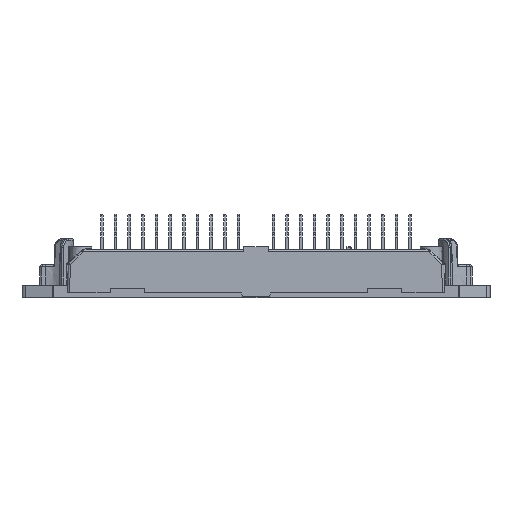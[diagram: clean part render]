
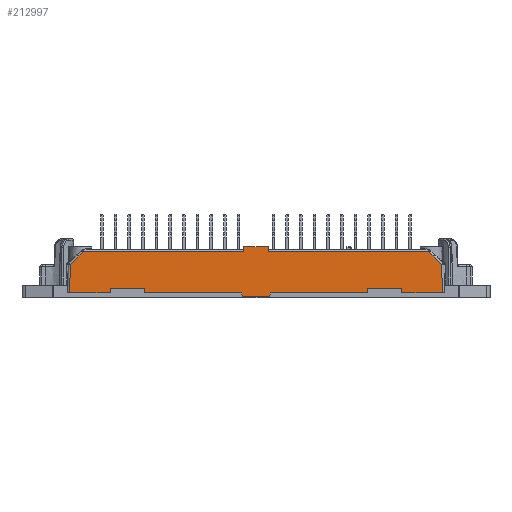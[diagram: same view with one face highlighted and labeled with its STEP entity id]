
A CAD part, front view. The second image highlights one B-rep face of the part: STEP entity #212997.
In plain terms, the highlighted planar face has unit normal (0, -1, 0.026).
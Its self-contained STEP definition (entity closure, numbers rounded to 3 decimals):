
#28141=ORIENTED_EDGE('',*,*,#67902,.F.);
#28142=ORIENTED_EDGE('',*,*,#67903,.T.);
#28143=ORIENTED_EDGE('',*,*,#67904,.F.);
#28144=ORIENTED_EDGE('',*,*,#67905,.T.);
#28145=ORIENTED_EDGE('',*,*,#67906,.T.);
#28146=ORIENTED_EDGE('',*,*,#66260,.F.);
#28147=ORIENTED_EDGE('',*,*,#66258,.T.);
#28148=ORIENTED_EDGE('',*,*,#67640,.F.);
#28149=ORIENTED_EDGE('',*,*,#66253,.T.);
#28150=ORIENTED_EDGE('',*,*,#67761,.T.);
#28151=ORIENTED_EDGE('',*,*,#66251,.T.);
#28152=ORIENTED_EDGE('',*,*,#66249,.T.);
#28153=ORIENTED_EDGE('',*,*,#67907,.T.);
#28154=ORIENTED_EDGE('',*,*,#67908,.F.);
#28155=ORIENTED_EDGE('',*,*,#67909,.T.);
#28156=ORIENTED_EDGE('',*,*,#67910,.T.);
#28157=ORIENTED_EDGE('',*,*,#67911,.T.);
#28158=ORIENTED_EDGE('',*,*,#66281,.F.);
#28159=ORIENTED_EDGE('',*,*,#66285,.T.);
#28160=ORIENTED_EDGE('',*,*,#66290,.F.);
#28161=ORIENTED_EDGE('',*,*,#66291,.F.);
#28162=ORIENTED_EDGE('',*,*,#66295,.T.);
#66249=EDGE_CURVE('',#84065,#84402,#103229,.T.);
#66251=EDGE_CURVE('',#84404,#84065,#103231,.T.);
#66253=EDGE_CURVE('',#84405,#84406,#103232,.F.);
#66258=EDGE_CURVE('',#84068,#84408,#103236,.F.);
#66260=EDGE_CURVE('',#84068,#84410,#103238,.T.);
#66281=EDGE_CURVE('',#84425,#84426,#103255,.F.);
#66285=EDGE_CURVE('',#84425,#84429,#103259,.T.);
#66290=EDGE_CURVE('',#84432,#84429,#103264,.F.);
#66291=EDGE_CURVE('',#84433,#84432,#103265,.T.);
#66295=EDGE_CURVE('',#84433,#84435,#103269,.F.);
#67640=EDGE_CURVE('',#84405,#84408,#103845,.T.);
#67761=EDGE_CURVE('',#84406,#84404,#103896,.T.);
#67902=EDGE_CURVE('',#85613,#84435,#103952,.F.);
#67903=EDGE_CURVE('',#85613,#85614,#103953,.F.);
#67904=EDGE_CURVE('',#85615,#85614,#103954,.F.);
#67905=EDGE_CURVE('',#85615,#85616,#103955,.F.);
#67906=EDGE_CURVE('',#85616,#84410,#103956,.F.);
#67907=EDGE_CURVE('',#84402,#85617,#103957,.F.);
#67908=EDGE_CURVE('',#85618,#85617,#103958,.F.);
#67909=EDGE_CURVE('',#85618,#85619,#103959,.F.);
#67910=EDGE_CURVE('',#85619,#85620,#103960,.F.);
#67911=EDGE_CURVE('',#85620,#84426,#103961,.F.);
#84065=VERTEX_POINT('',#297188);
#84068=VERTEX_POINT('',#297198);
#84402=VERTEX_POINT('',#301389);
#84404=VERTEX_POINT('',#301395);
#84405=VERTEX_POINT('',#301399);
#84406=VERTEX_POINT('',#301400);
#84408=VERTEX_POINT('',#301407);
#84410=VERTEX_POINT('',#301413);
#84425=VERTEX_POINT('',#301478);
#84426=VERTEX_POINT('',#301479);
#84429=VERTEX_POINT('',#301487);
#84432=VERTEX_POINT('',#301495);
#84433=VERTEX_POINT('',#301499);
#84435=VERTEX_POINT('',#301505);
#85613=VERTEX_POINT('',#306697);
#85614=VERTEX_POINT('',#306699);
#85615=VERTEX_POINT('',#306701);
#85616=VERTEX_POINT('',#306703);
#85617=VERTEX_POINT('',#306706);
#85618=VERTEX_POINT('',#306708);
#85619=VERTEX_POINT('',#306710);
#85620=VERTEX_POINT('',#306712);
#103229=LINE('',#301390,#121530);
#103231=LINE('',#301394,#121532);
#103232=LINE('',#301398,#121533);
#103236=LINE('',#301408,#121537);
#103238=LINE('',#301412,#121539);
#103255=LINE('',#301477,#121556);
#103259=LINE('',#301486,#121560);
#103264=LINE('',#301496,#121565);
#103265=LINE('',#301498,#121566);
#103269=LINE('',#301507,#121570);
#103845=LINE('',#305744,#122146);
#103896=LINE('',#306168,#122197);
#103952=LINE('',#306696,#122253);
#103953=LINE('',#306698,#122254);
#103954=LINE('',#306700,#122255);
#103955=LINE('',#306702,#122256);
#103956=LINE('',#306704,#122257);
#103957=LINE('',#306705,#122258);
#103958=LINE('',#306707,#122259);
#103959=LINE('',#306709,#122260);
#103960=LINE('',#306711,#122261);
#103961=LINE('',#306713,#122262);
#121530=VECTOR('',#250558,1000.);
#121532=VECTOR('',#250562,1000.);
#121533=VECTOR('',#250567,1000.);
#121537=VECTOR('',#250575,1000.);
#121539=VECTOR('',#250579,1000.);
#121556=VECTOR('',#250612,1000.);
#121560=VECTOR('',#250618,1000.);
#121565=VECTOR('',#250625,1000.);
#121566=VECTOR('',#250628,1000.);
#121570=VECTOR('',#250634,1000.);
#122146=VECTOR('',#252742,1000.);
#122197=VECTOR('',#252885,1000.);
#122253=VECTOR('',#253069,1000.);
#122254=VECTOR('',#253070,1000.);
#122255=VECTOR('',#253071,1000.);
#122256=VECTOR('',#253072,1000.);
#122257=VECTOR('',#253073,1000.);
#122258=VECTOR('',#253074,1000.);
#122259=VECTOR('',#253075,1000.);
#122260=VECTOR('',#253076,1000.);
#122261=VECTOR('',#253077,1000.);
#122262=VECTOR('',#253078,1000.);
#131837=EDGE_LOOP('',(#28141,#28142,#28143,#28144,#28145,#28146,#28147,
#28148,#28149,#28150,#28151,#28152,#28153,#28154,#28155,#28156,#28157,#28158,
#28159,#28160,#28161,#28162));
#140523=FACE_BOUND('',#131837,.T.);
#148665=PLANE('',#221974);
#212997=ADVANCED_FACE('',(#140523),#148665,.T.);
#221974=AXIS2_PLACEMENT_3D('',#306695,#253067,#253068);
#250558=DIRECTION('',(-0.707,-0.019,-0.707));
#250562=DIRECTION('',(-1.,0.,0.));
#250567=DIRECTION('',(1.,0.,0.));
#250575=DIRECTION('',(1.,0.,0.));
#250579=DIRECTION('',(0.707,-0.019,-0.707));
#250612=DIRECTION('',(1.,0.,0.));
#250618=DIRECTION('',(0.174,-0.026,-0.984));
#250625=DIRECTION('',(1.,0.,0.));
#250628=DIRECTION('',(-0.174,-0.026,-0.984));
#250634=DIRECTION('',(-1.,0.,0.));
#252742=DIRECTION('',(0.017,-0.026,-1.));
#252885=DIRECTION('',(-0.017,-0.026,-1.));
#253067=DIRECTION('',(0.,-1.,0.026));
#253068=DIRECTION('',(0.,-0.026,-1.));
#253069=DIRECTION('',(0.,0.026,1.));
#253070=DIRECTION('',(-1.,0.,0.));
#253071=DIRECTION('',(0.,-0.026,-1.));
#253072=DIRECTION('',(-1.,0.,0.));
#253073=DIRECTION('',(0.026,-0.026,-0.999));
#253074=DIRECTION('',(0.026,0.026,0.999));
#253075=DIRECTION('',(1.,0.,0.));
#253076=DIRECTION('',(0.,-0.026,-1.));
#253077=DIRECTION('',(-1.,0.,0.));
#253078=DIRECTION('',(0.,0.026,1.));
#297188=CARTESIAN_POINT('',(-40.443,-30.719,7.363));
#297198=CARTESIAN_POINT('',(40.443,-30.719,7.363));
#301389=CARTESIAN_POINT('',(-43.474,-30.798,4.332));
#301390=CARTESIAN_POINT('',(-23.298,-30.27,24.508));
#301394=CARTESIAN_POINT('',(0.,-30.719,7.363));
#301395=CARTESIAN_POINT('',(-2.845,-30.719,7.363));
#301398=CARTESIAN_POINT('',(0.,-30.689,8.5));
#301399=CARTESIAN_POINT('',(2.825,-30.689,8.5));
#301400=CARTESIAN_POINT('',(-2.825,-30.689,8.5));
#301407=CARTESIAN_POINT('',(2.845,-30.719,7.363));
#301408=CARTESIAN_POINT('',(0.,-30.719,7.363));
#301412=CARTESIAN_POINT('',(23.298,-30.27,24.508));
#301413=CARTESIAN_POINT('',(43.474,-30.798,4.332));
#301477=CARTESIAN_POINT('',(0.,-30.972,-2.3));
#301478=CARTESIAN_POINT('',(-3.359,-30.972,-2.3));
#301479=CARTESIAN_POINT('',(-26.147,-30.972,-2.3));
#301486=CARTESIAN_POINT('',(-3.861,-30.897,0.546));
#301487=CARTESIAN_POINT('',(-3.218,-30.993,-3.1));
#301495=CARTESIAN_POINT('',(3.218,-30.993,-3.1));
#301496=CARTESIAN_POINT('',(3.5,-30.993,-3.1));
#301498=CARTESIAN_POINT('',(3.861,-30.897,0.546));
#301499=CARTESIAN_POINT('',(3.359,-30.972,-2.3));
#301505=CARTESIAN_POINT('',(26.147,-30.972,-2.3));
#301507=CARTESIAN_POINT('',(0.,-30.972,-2.3));
#305744=CARTESIAN_POINT('',(2.849,-30.725,7.119));
#306168=CARTESIAN_POINT('',(-2.849,-30.725,7.119));
#306695=CARTESIAN_POINT('',(0.,-30.879,1.226));
#306696=CARTESIAN_POINT('',(26.147,-30.879,1.226));
#306697=CARTESIAN_POINT('',(26.147,-30.945,-1.3));
#306698=CARTESIAN_POINT('',(0.,-30.945,-1.3));
#306699=CARTESIAN_POINT('',(34.147,-30.945,-1.3));
#306700=CARTESIAN_POINT('',(34.147,-30.879,1.226));
#306701=CARTESIAN_POINT('',(34.147,-30.972,-2.3));
#306702=CARTESIAN_POINT('',(0.,-30.972,-2.3));
#306703=CARTESIAN_POINT('',(43.647,-30.972,-2.3));
#306704=CARTESIAN_POINT('',(43.525,-30.849,2.365));
#306705=CARTESIAN_POINT('',(-43.525,-30.849,2.365));
#306706=CARTESIAN_POINT('',(-43.647,-30.972,-2.3));
#306707=CARTESIAN_POINT('',(0.,-30.972,-2.3));
#306708=CARTESIAN_POINT('',(-34.147,-30.972,-2.3));
#306709=CARTESIAN_POINT('',(-34.147,-30.879,1.226));
#306710=CARTESIAN_POINT('',(-34.147,-30.945,-1.3));
#306711=CARTESIAN_POINT('',(0.,-30.945,-1.3));
#306712=CARTESIAN_POINT('',(-26.147,-30.945,-1.3));
#306713=CARTESIAN_POINT('',(-26.147,-30.879,1.226));
